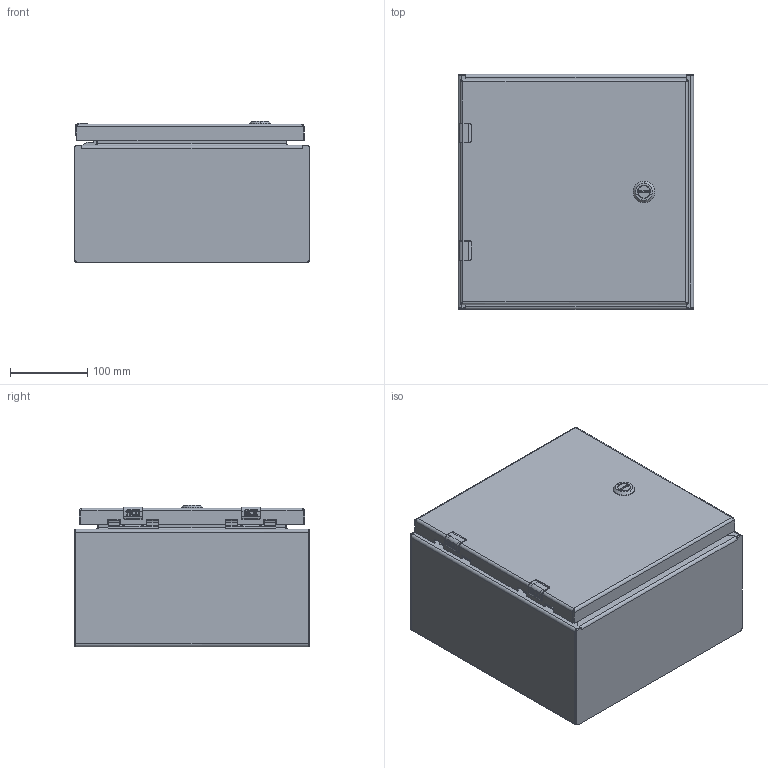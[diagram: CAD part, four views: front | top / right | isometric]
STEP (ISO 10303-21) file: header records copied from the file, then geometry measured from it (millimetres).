
FILE_DESCRIPTION((''),'2;1');
FILE_NAME('MODEL-306_ASM','2026-03-31T15:46:48',('andrew.knowlton'),('SAGINAW CONTROL & ENGINEERING'),'CREO PARAMETRIC BY PTC INC, 2021284','CREO PARAMETRIC BY PTC INC, 2021284','');
FILE_SCHEMA(('AUTOMOTIVE_DESIGN { 1 0 10303 214 1 1 1 1 }'));
Length unit declared in the file: inch
Products named in the file (28): MODEL-306-BDY; MODEL-306-TP; MODEL-306-BTM; MODEL-306-DR; 100837; 125597; 100794_SHAFT; 100794_INSERT; 100794_CAM; 100794_NUT; 100794_SCREW; 100794_ASM; MODEL-306-DOOR-GASKET; 126392; 126392_ASM; 126395; 102483; 101226; 101389; 102140; 132757; MODEL-306-DOOR-ASSY_ASM; 101651; 122191; SUBPANEL; 100904; SUBPANEL-SUBASSEMBLY_ASM; MODEL-306_ASM
Assembly tree (45 placements, depth 4):
  MODEL-306_ASM
    MODEL-306-BDY
    MODEL-306-TP
    MODEL-306-BTM
    MODEL-306-DOOR-ASSY_ASM
      MODEL-306-DR
      100837
      125597
      100794_ASM
        100794_SHAFT
        100794_INSERT
        100794_CAM
        100794_NUT
        100794_SCREW
      MODEL-306-DOOR-GASKET
      126392_ASM  x2
        126392
      126395  x2
      102483  x6
      101226  x2
      101389  x2
      102140  x2
      132757  x2
    100837
    101651  x4
    122191
    SUBPANEL-SUBASSEMBLY_ASM
      SUBPANEL
      100904  x4
Bounding box: 304.8 x 304.8 x 183.53 mm (x, y, z)
Volume: 1153835 mm3; surface area: 1078961.2 mm2
Topology: 42 solids, 42 shells, 2023 faces, 5069 edges, 3180 vertices
Faces by surface type: plane 951, cylinder 639, torus 177, bspline 116, cone 96, sphere 44
Entity records: 64432 total; most frequent: CARTESIAN_POINT 13012, DIRECTION 7349, ORIENTED_EDGE 6990, PRESENTATION_STYLE_ASSIGNMENT 3694, EDGE_CURVE 3495, STYLED_ITEM 3417, CURVE_STYLE 3333, AXIS2_PLACEMENT_3D 2626
